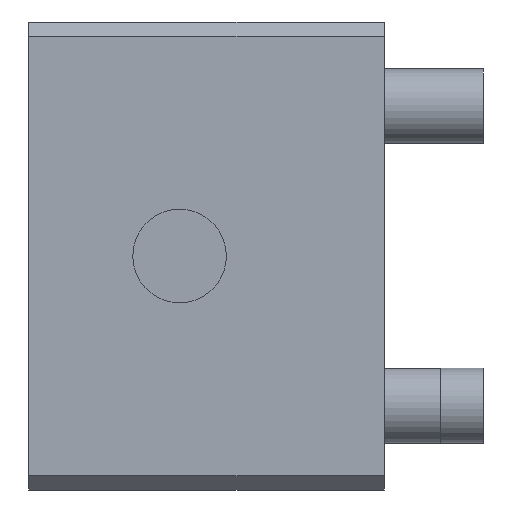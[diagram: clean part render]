
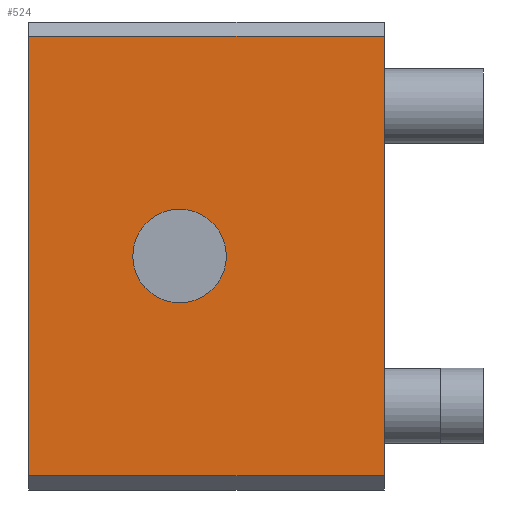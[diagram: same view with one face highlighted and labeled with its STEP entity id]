
A CAD part, left-side view. The second image highlights one B-rep face of the part: STEP entity #524.
In plain terms, the highlighted planar face has unit normal (-1, 0, 0).
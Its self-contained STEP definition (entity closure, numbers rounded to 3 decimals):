
#14 = LINE ( 'NONE', #2330, #4837 ) ;
#80 = CARTESIAN_POINT ( 'NONE',  ( -25., -19., 25. ) ) ;
#178 = ORIENTED_EDGE ( 'NONE', *, *, #371, .T. ) ;
#371 = EDGE_CURVE ( 'NONE', #2762, #2762, #3835, .T. ) ;
#444 = DIRECTION ( 'NONE',  ( 1., 0., 0. ) ) ;
#467 = ORIENTED_EDGE ( 'NONE', *, *, #3873, .F. ) ;
#474 = CARTESIAN_POINT ( 'NONE',  ( -25., 19., 23.5 ) ) ;
#524 = ADVANCED_FACE ( 'NONE', ( #3174, #4799 ), #844, .F. ) ;
#526 = ORIENTED_EDGE ( 'NONE', *, *, #3718, .T. ) ;
#699 = AXIS2_PLACEMENT_3D ( 'NONE', #1513, #444, #1133 ) ;
#844 = PLANE ( 'NONE',  #699 ) ;
#862 = CARTESIAN_POINT ( 'NONE',  ( -25., -19., -23.5 ) ) ;
#876 = DIRECTION ( 'NONE',  ( 1., 0., 0. ) ) ;
#1133 = DIRECTION ( 'NONE',  ( 0., 0., -1. ) ) ;
#1352 = EDGE_LOOP ( 'NONE', ( #178 ) ) ;
#1513 = CARTESIAN_POINT ( 'NONE',  ( -25., 19., 25. ) ) ;
#1659 = CARTESIAN_POINT ( 'NONE',  ( -25., 19., 25. ) ) ;
#1758 = EDGE_CURVE ( 'NONE', #3489, #4811, #2345, .T. ) ;
#1891 = EDGE_LOOP ( 'NONE', ( #526, #3888, #467, #4901 ) ) ;
#1928 = VERTEX_POINT ( 'NONE', #862 ) ;
#1948 = CARTESIAN_POINT ( 'NONE',  ( -25., -19., 23.5 ) ) ;
#2030 = LINE ( 'NONE', #80, #5079 ) ;
#2044 = DIRECTION ( 'NONE',  ( 0., 0., -1. ) ) ;
#2046 = VERTEX_POINT ( 'NONE', #2835 ) ;
#2250 = CARTESIAN_POINT ( 'NONE',  ( -25., 2.871, -4.25 ) ) ;
#2330 = CARTESIAN_POINT ( 'NONE',  ( -25., 19., -23.5 ) ) ;
#2345 = LINE ( 'NONE', #4292, #4097 ) ;
#2762 = VERTEX_POINT ( 'NONE', #2250 ) ;
#2768 = EDGE_CURVE ( 'NONE', #2046, #1928, #14, .T. ) ;
#2835 = CARTESIAN_POINT ( 'NONE',  ( -25., 19., -23.5 ) ) ;
#2898 = CARTESIAN_POINT ( 'NONE',  ( -25., 2.871, 0. ) ) ;
#3174 = FACE_BOUND ( 'NONE', #1352, .T. ) ;
#3489 = VERTEX_POINT ( 'NONE', #1948 ) ;
#3683 = DIRECTION ( 'NONE',  ( 0., 0., -1. ) ) ;
#3718 = EDGE_CURVE ( 'NONE', #4811, #2046, #4166, .T. ) ;
#3730 = DIRECTION ( 'NONE',  ( 0., 0., -1. ) ) ;
#3835 = CIRCLE ( 'NONE', #4346, 4.25 ) ;
#3873 = EDGE_CURVE ( 'NONE', #3489, #1928, #2030, .T. ) ;
#3888 = ORIENTED_EDGE ( 'NONE', *, *, #2768, .T. ) ;
#3896 = DIRECTION ( 'NONE',  ( 0., -1., 0. ) ) ;
#4097 = VECTOR ( 'NONE', #5066, 1000. ) ;
#4166 = LINE ( 'NONE', #1659, #4650 ) ;
#4292 = CARTESIAN_POINT ( 'NONE',  ( -25., 19., 23.5 ) ) ;
#4346 = AXIS2_PLACEMENT_3D ( 'NONE', #2898, #876, #2044 ) ;
#4650 = VECTOR ( 'NONE', #3683, 1000. ) ;
#4799 = FACE_OUTER_BOUND ( 'NONE', #1891, .T. ) ;
#4811 = VERTEX_POINT ( 'NONE', #474 ) ;
#4837 = VECTOR ( 'NONE', #3896, 1000. ) ;
#4901 = ORIENTED_EDGE ( 'NONE', *, *, #1758, .T. ) ;
#5066 = DIRECTION ( 'NONE',  ( 0., 1., 0. ) ) ;
#5079 = VECTOR ( 'NONE', #3730, 1000. ) ;
